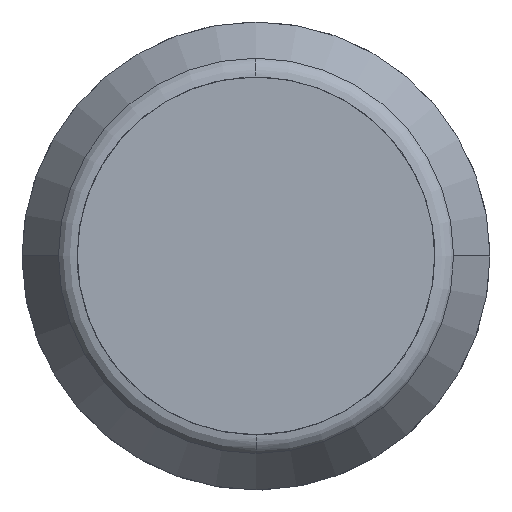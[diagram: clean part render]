
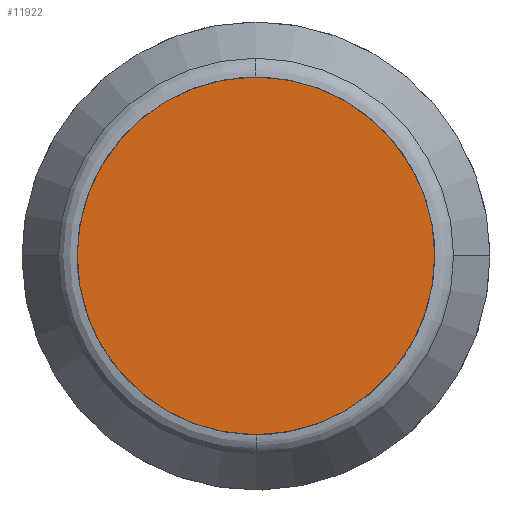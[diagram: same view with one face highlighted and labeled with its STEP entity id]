
A CAD part, top view. The second image highlights one B-rep face of the part: STEP entity #11922.
In plain terms, the highlighted planar face has unit normal (0, 0, 1).
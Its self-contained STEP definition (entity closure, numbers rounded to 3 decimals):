
#11857=CARTESIAN_POINT('',(24.679,0.,44.9));
#11858=CARTESIAN_POINT('',(24.679,-1.185,44.9));
#11859=CARTESIAN_POINT('',(24.511,-3.528,44.9));
#11860=CARTESIAN_POINT('',(23.755,-6.998,44.9));
#11861=CARTESIAN_POINT('',(22.511,-10.32,44.9));
#11862=CARTESIAN_POINT('',(20.819,-13.409,44.9));
#11863=CARTESIAN_POINT('',(18.698,-16.236,44.9));
#11864=CARTESIAN_POINT('',(16.201,-18.728,44.9));
#11865=CARTESIAN_POINT('',(13.375,-20.84,44.9));
#11866=CARTESIAN_POINT('',(10.278,-22.53,44.9));
#11867=CARTESIAN_POINT('',(6.97,-23.762,44.9));
#11868=CARTESIAN_POINT('',(3.518,-24.512,44.9));
#11869=CARTESIAN_POINT('',(-0.007,-24.764,44.9));
#11870=CARTESIAN_POINT('',(-3.533,-24.51,44.9));
#11871=CARTESIAN_POINT('',(-6.987,-23.757,44.9));
#11872=CARTESIAN_POINT('',(-10.294,-22.522,44.9));
#11873=CARTESIAN_POINT('',(-13.39,-20.831,44.9));
#11874=CARTESIAN_POINT('',(-16.217,-18.715,44.9));
#11875=CARTESIAN_POINT('',(-18.716,-16.216,44.9));
#11876=CARTESIAN_POINT('',(-20.835,-13.383,44.9));
#11877=CARTESIAN_POINT('',(-22.521,-10.296,44.9));
#11878=CARTESIAN_POINT('',(-23.76,-6.981,44.9));
#11879=CARTESIAN_POINT('',(-24.512,-3.521,44.9));
#11880=CARTESIAN_POINT('',(-24.679,-1.182,44.9));
#11881=CARTESIAN_POINT('',(-24.679,0.,44.9));
#11883=CARTESIAN_POINT('',(-24.679,0.,44.9));
#11884=CARTESIAN_POINT('',(-24.679,1.185,44.9));
#11885=CARTESIAN_POINT('',(-24.511,3.528,44.9));
#11886=CARTESIAN_POINT('',(-23.755,6.998,44.9));
#11887=CARTESIAN_POINT('',(-22.511,10.32,44.9));
#11888=CARTESIAN_POINT('',(-20.819,13.409,44.9));
#11889=CARTESIAN_POINT('',(-18.698,16.236,44.9));
#11890=CARTESIAN_POINT('',(-16.201,18.728,44.9));
#11891=CARTESIAN_POINT('',(-13.375,20.84,44.9));
#11892=CARTESIAN_POINT('',(-10.278,22.53,44.9));
#11893=CARTESIAN_POINT('',(-6.97,23.762,44.9));
#11894=CARTESIAN_POINT('',(-3.518,24.512,44.9));
#11895=CARTESIAN_POINT('',(0.007,24.764,44.9));
#11896=CARTESIAN_POINT('',(3.533,24.51,44.9));
#11897=CARTESIAN_POINT('',(6.987,23.757,44.9));
#11898=CARTESIAN_POINT('',(10.294,22.522,44.9));
#11899=CARTESIAN_POINT('',(13.39,20.831,44.9));
#11900=CARTESIAN_POINT('',(16.217,18.715,44.9));
#11901=CARTESIAN_POINT('',(18.716,16.216,44.9));
#11902=CARTESIAN_POINT('',(20.835,13.383,44.9));
#11903=CARTESIAN_POINT('',(22.521,10.296,44.9));
#11904=CARTESIAN_POINT('',(23.76,6.981,44.9));
#11905=CARTESIAN_POINT('',(24.512,3.521,44.9));
#11906=CARTESIAN_POINT('',(24.679,1.182,44.9));
#11907=CARTESIAN_POINT('',(24.679,0.,44.9));
#11909=VERTEX_POINT('',#11881);
#11910=VERTEX_POINT('',#11857);
#11911=CARTESIAN_POINT('',(0.,0.,44.9));
#11912=DIRECTION('',(0.,0.,1.));
#11913=DIRECTION('',(0.,-1.,0.));
#11914=AXIS2_PLACEMENT_3D('',#11911,#11912,#11913);
#11915=PLANE('',#11914);
#11917=ORIENTED_EDGE('',*,*,#11916,.T.);
#11919=ORIENTED_EDGE('',*,*,#11918,.T.);
#11920=EDGE_LOOP('',(#11917,#11919));
#11921=FACE_OUTER_BOUND('',#11920,.F.);
#11922=ADVANCED_FACE('',(#11921),#11915,.T.);
#11882=B_SPLINE_CURVE_WITH_KNOTS('',3,(#11857,#11858,#11859,#11860,#11861,
#11862,#11863,#11864,#11865,#11866,#11867,#11868,#11869,#11870,#11871,#11872,
#11873,#11874,#11875,#11876,#11877,#11878,#11879,#11880,#11881),.UNSPECIFIED.,
.F.,.F.,(4,1,1,1,1,1,1,1,1,1,1,1,1,1,1,1,1,1,1,1,1,1,4),(0.,0.045,
0.091,0.136,0.182,0.227,
0.273,0.318,0.364,0.409,
0.455,0.5,0.545,0.591,0.636,
0.682,0.727,0.773,0.818,
0.864,0.909,0.955,1.),.UNSPECIFIED.);
#11908=B_SPLINE_CURVE_WITH_KNOTS('',3,(#11883,#11884,#11885,#11886,#11887,
#11888,#11889,#11890,#11891,#11892,#11893,#11894,#11895,#11896,#11897,#11898,
#11899,#11900,#11901,#11902,#11903,#11904,#11905,#11906,#11907),.UNSPECIFIED.,
.F.,.F.,(4,1,1,1,1,1,1,1,1,1,1,1,1,1,1,1,1,1,1,1,1,1,4),(0.,0.045,
0.091,0.136,0.182,0.227,
0.273,0.318,0.364,0.409,
0.455,0.5,0.545,0.591,0.636,
0.682,0.727,0.773,0.818,
0.864,0.909,0.955,1.),.UNSPECIFIED.);
#11916=EDGE_CURVE('',#11910,#11909,#11882,.T.);
#11918=EDGE_CURVE('',#11909,#11910,#11908,.T.);
